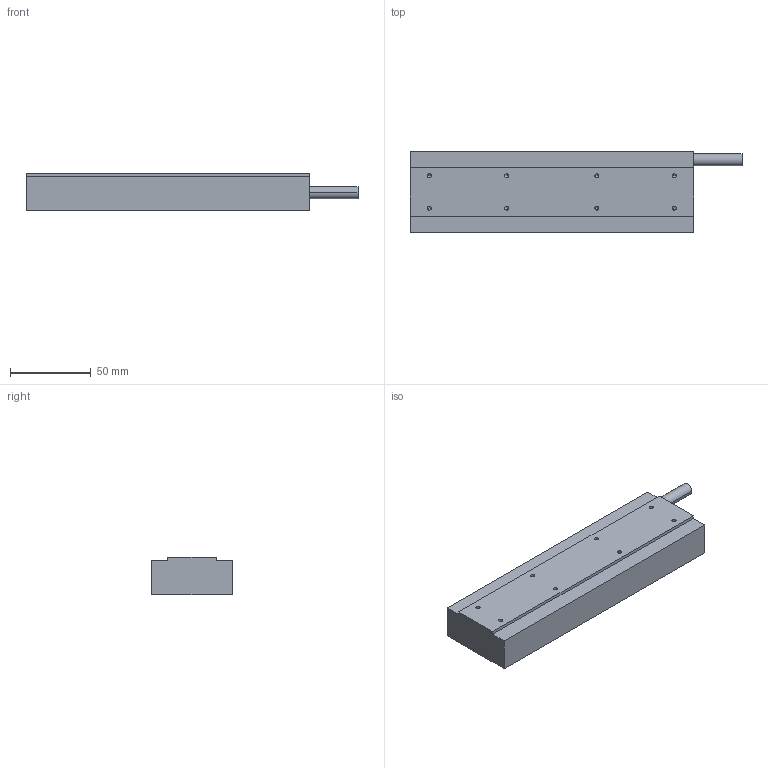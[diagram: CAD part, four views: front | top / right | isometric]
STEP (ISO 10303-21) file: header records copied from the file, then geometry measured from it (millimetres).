
FILE_DESCRIPTION (( 'STEP AP214' ), '1' );
FILE_NAME ('A-CJM030D.STEP', '2025-09-05T09:13:58', ( '' ), ( '' ), 'SwSTEP 2.0', 'SolidWorks 2016', '' );
FILE_SCHEMA (( 'AUTOMOTIVE_DESIGN' ));
Length unit declared in the file: millimetre
Products named in the file (1): A-CJM030D
Bounding box: 206 x 50 x 23.2 mm (x, y, z)
Volume: 198092.7 mm3; surface area: 29291.8 mm2
Topology: 1 solids, 1 shells, 69 faces, 166 edges, 88 vertices
Faces by surface type: cone 32, cylinder 26, plane 11
Entity records: 2070 total; most frequent: DIRECTION 342, CARTESIAN_POINT 300, ORIENTED_EDGE 284, EDGE_CURVE 142, AXIS2_PLACEMENT_3D 130, VERTEX_POINT 88, EDGE_LOOP 82, LINE 82
